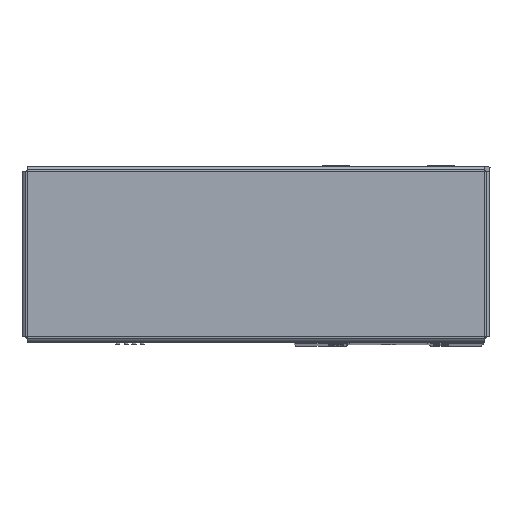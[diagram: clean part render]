
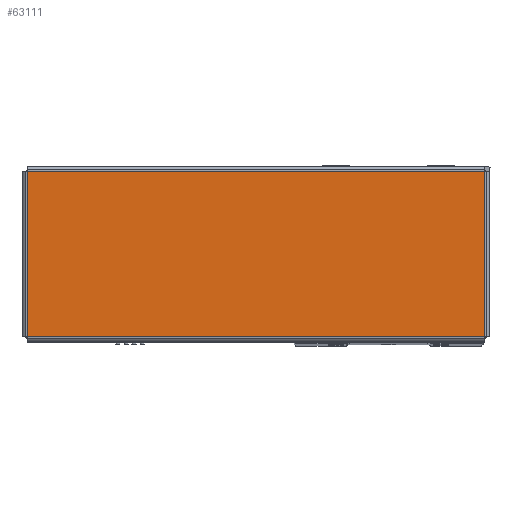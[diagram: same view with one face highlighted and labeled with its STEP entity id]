
A CAD part, top view. The second image highlights one B-rep face of the part: STEP entity #63111.
In plain terms, the highlighted planar face has unit normal (0, 0, 1).
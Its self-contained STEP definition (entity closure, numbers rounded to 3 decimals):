
#2531 = CARTESIAN_POINT ( 'NONE',  ( -39.25, 16.448, 255.5 ) ) ;
#2694 = CARTESIAN_POINT ( 'NONE',  ( 28.5, 40.948, 255.5 ) ) ;
#2977 = DIRECTION ( 'NONE',  ( 1., 0., 0. ) ) ;
#5183 = ORIENTED_EDGE ( 'NONE', *, *, #21930, .T. ) ;
#6265 = VECTOR ( 'NONE', #16426, 1000. ) ;
#7888 = VERTEX_POINT ( 'NONE', #29726 ) ;
#10895 = VERTEX_POINT ( 'NONE', #45791 ) ;
#12387 = AXIS2_PLACEMENT_3D ( 'NONE', #2531, #22434, #42311 ) ;
#14262 = LINE ( 'NONE', #34107, #20282 ) ;
#16426 = DIRECTION ( 'NONE',  ( 0., -1., 0. ) ) ;
#17422 = DIRECTION ( 'NONE',  ( -1., 0., 0. ) ) ;
#20282 = VECTOR ( 'NONE', #54022, 1000. ) ;
#21930 = EDGE_CURVE ( 'NONE', #48215, #10895, #42191, .T. ) ;
#22434 = DIRECTION ( 'NONE',  ( 0., 0., -1. ) ) ;
#27285 = FACE_OUTER_BOUND ( 'NONE', #44959, .T. ) ;
#27743 = LINE ( 'NONE', #47637, #37998 ) ;
#29726 = CARTESIAN_POINT ( 'NONE',  ( 28.5, -8.052, 255.5 ) ) ;
#30350 = CARTESIAN_POINT ( 'NONE',  ( -107., -8.052, 255.5 ) ) ;
#33122 = EDGE_CURVE ( 'NONE', #7888, #48215, #14262, .T. ) ;
#34107 = CARTESIAN_POINT ( 'NONE',  ( 28.5, -8.552, 255.5 ) ) ;
#37998 = VECTOR ( 'NONE', #2977, 1000. ) ;
#40887 = ORIENTED_EDGE ( 'NONE', *, *, #52335, .T. ) ;
#41194 = LINE ( 'NONE', #61099, #6265 ) ;
#42191 = LINE ( 'NONE', #62103, #57318 ) ;
#42311 = DIRECTION ( 'NONE',  ( -1., 0., 0. ) ) ;
#43481 = EDGE_CURVE ( 'NONE', #10895, #43674, #41194, .T. ) ;
#43674 = VERTEX_POINT ( 'NONE', #30350 ) ;
#44959 = EDGE_LOOP ( 'NONE', ( #40887, #50509, #5183, #57479 ) ) ;
#45791 = CARTESIAN_POINT ( 'NONE',  ( -107., 40.948, 255.5 ) ) ;
#47179 = PLANE ( 'NONE',  #12387 ) ;
#47637 = CARTESIAN_POINT ( 'NONE',  ( -107., -8.052, 255.5 ) ) ;
#48215 = VERTEX_POINT ( 'NONE', #2694 ) ;
#50509 = ORIENTED_EDGE ( 'NONE', *, *, #33122, .T. ) ;
#52335 = EDGE_CURVE ( 'NONE', #43674, #7888, #27743, .T. ) ;
#54022 = DIRECTION ( 'NONE',  ( 0., 1., 0. ) ) ;
#57318 = VECTOR ( 'NONE', #17422, 1000. ) ;
#57479 = ORIENTED_EDGE ( 'NONE', *, *, #43481, .T. ) ;
#61099 = CARTESIAN_POINT ( 'NONE',  ( -107., -8.552, 255.5 ) ) ;
#62103 = CARTESIAN_POINT ( 'NONE',  ( 28.5, 40.948, 255.5 ) ) ;
#63111 = ADVANCED_FACE ( 'NONE', ( #27285 ), #47179, .F. ) ;
